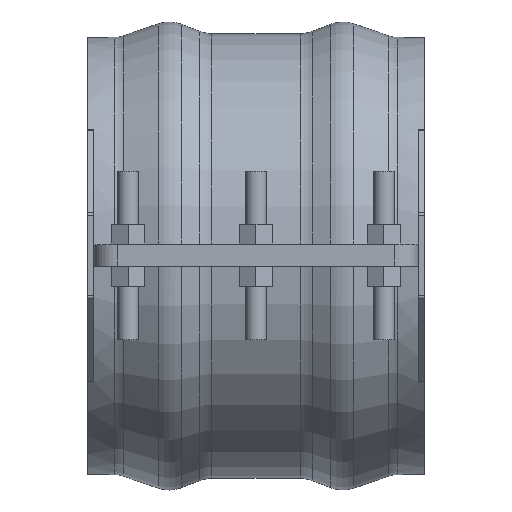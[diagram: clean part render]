
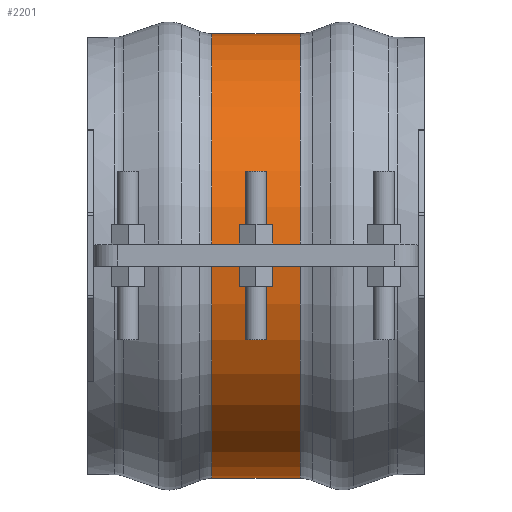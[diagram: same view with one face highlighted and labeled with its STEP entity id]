
A CAD part, top view. The second image highlights one B-rep face of the part: STEP entity #2201.
In plain terms, the highlighted cylindrical face has radius 167.855 mm (diameter 335.709 mm), a partial arc.
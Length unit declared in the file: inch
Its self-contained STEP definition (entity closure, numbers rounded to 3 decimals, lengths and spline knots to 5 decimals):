
#257=FACE_OUTER_BOUND('',#382,.T.);
#382=EDGE_LOOP('',(#1818,#1819,#1820,#1821));
#574=LINE('',#3580,#753);
#577=LINE('',#3657,#756);
#753=VECTOR('',#2893,0.3937);
#756=VECTOR('',#2904,0.3937);
#816=CIRCLE('',#2384,6.60844);
#817=CIRCLE('',#2386,6.60844);
#1017=VERTEX_POINT('',#3572);
#1018=VERTEX_POINT('',#3579);
#1029=VERTEX_POINT('',#3649);
#1030=VERTEX_POINT('',#3656);
#1290=EDGE_CURVE('',#1018,#1017,#574,.T.);
#1305=EDGE_CURVE('',#1030,#1029,#577,.T.);
#1316=EDGE_CURVE('',#1018,#1029,#816,.T.);
#1317=EDGE_CURVE('',#1017,#1030,#817,.T.);
#1818=ORIENTED_EDGE('',*,*,#1290,.T.);
#1819=ORIENTED_EDGE('',*,*,#1317,.T.);
#1820=ORIENTED_EDGE('',*,*,#1305,.T.);
#1821=ORIENTED_EDGE('',*,*,#1316,.F.);
#1994=CYLINDRICAL_SURFACE('',#2385,6.60844);
#2201=ADVANCED_FACE('',(#257),#1994,.T.);
#2384=AXIS2_PLACEMENT_3D('',#3701,#2925,#2926);
#2385=AXIS2_PLACEMENT_3D('',#3702,#2927,#2928);
#2386=AXIS2_PLACEMENT_3D('',#3703,#2929,#2930);
#2893=DIRECTION('',(-1.,0.,0.));
#2904=DIRECTION('',(1.,0.,0.));
#2925=DIRECTION('center_axis',(1.,0.,0.));
#2926=DIRECTION('ref_axis',(0.,0.,-1.));
#2927=DIRECTION('center_axis',(1.,0.,0.));
#2928=DIRECTION('ref_axis',(0.,0.,
-1.));
#2929=DIRECTION('center_axis',(1.,0.,0.));
#2930=DIRECTION('ref_axis',(0.,0.,-1.));
#3572=CARTESIAN_POINT('',(-1.31466,-0.3125,6.60105));
#3579=CARTESIAN_POINT('',(1.31466,-0.3125,6.60105));
#3580=CARTESIAN_POINT('',(0.,-0.3125,6.60105));
#3649=CARTESIAN_POINT('',(1.31466,0.3125,6.60105));
#3656=CARTESIAN_POINT('',(-1.31466,0.3125,6.60105));
#3657=CARTESIAN_POINT('',(0.,0.3125,6.60105));
#3701=CARTESIAN_POINT('Origin',(1.31466,0.,
0.));
#3702=CARTESIAN_POINT('Origin',(0.,0.,0.));
#3703=CARTESIAN_POINT('Origin',(-1.31466,0.,
0.));
